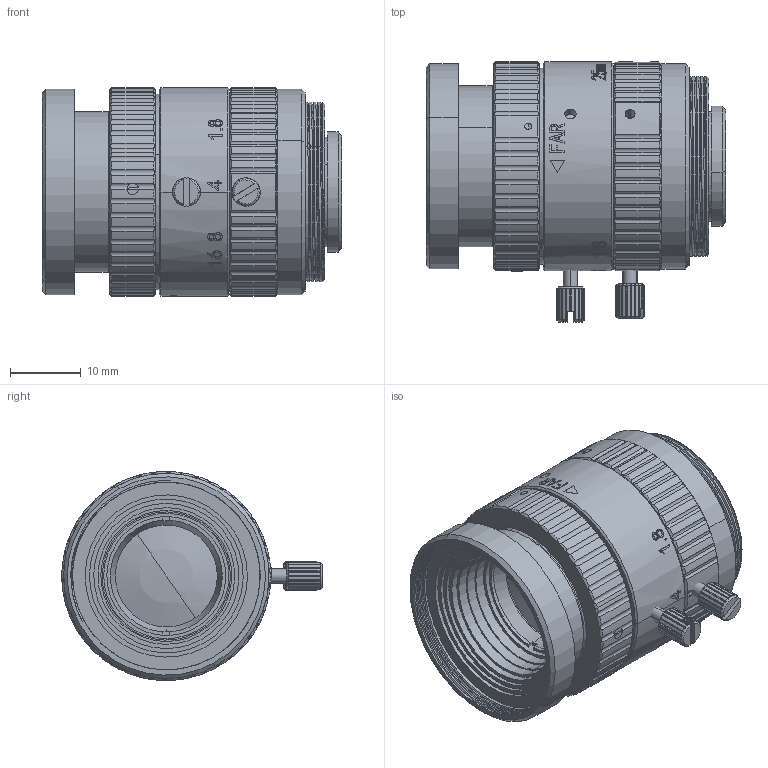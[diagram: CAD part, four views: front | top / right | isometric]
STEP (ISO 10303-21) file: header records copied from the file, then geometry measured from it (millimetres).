
FILE_DESCRIPTION (( 'STEP AP203' ), '1' );
FILE_NAME ('FAU2518MC.HR-H-輪扜擒-.STEP', '2025-11-04T02:39:50', ( '' ), ( '' ), 'SwSTEP 2.0', 'SolidWorks 2019', '' );
FILE_SCHEMA (( 'CONFIG_CONTROL_DESIGN' ));
Products named in the file (1): FAU2518MC.HR-H-輪扜擒-
Bounding box: 42.27 x 36.75 x 29.5 mm (x, y, z)
Volume: 20047.3 mm3; surface area: 17473 mm2
Topology: 16 solids, 16 shells, 1063 faces, 2831 edges, 1849 vertices
Faces by surface type: cylinder 455, plane 400, bspline 120, cone 80, sphere 6, torus 2
Entity records: 49888 total; most frequent: CARTESIAN_POINT 25032, ORIENTED_EDGE 5628, DIRECTION 4458, EDGE_CURVE 2814, VERTEX_POINT 1846, AXIS2_PLACEMENT_3D 1702, EDGE_LOOP 1174, ADVANCED_FACE 1063
